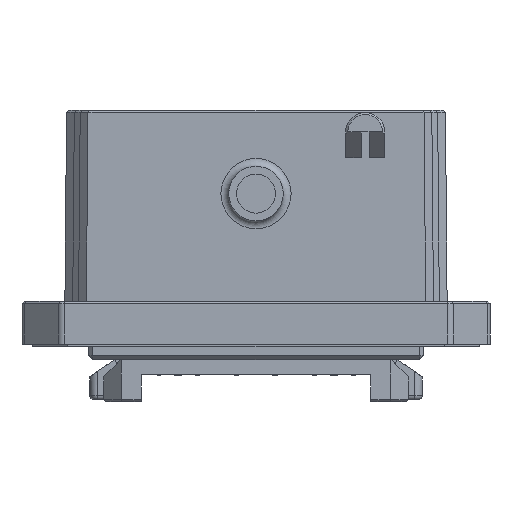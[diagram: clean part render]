
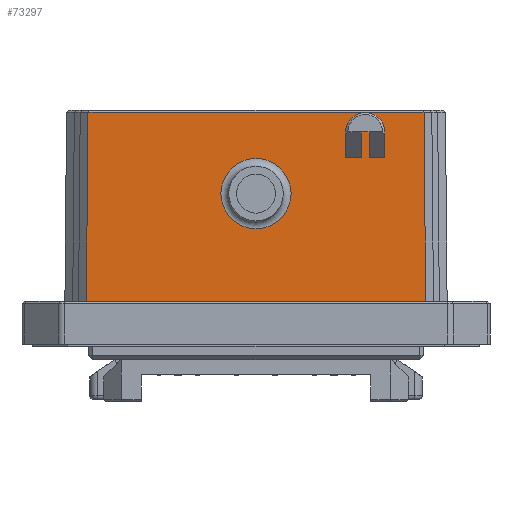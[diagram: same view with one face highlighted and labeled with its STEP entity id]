
A CAD part, front view. The second image highlights one B-rep face of the part: STEP entity #73297.
In plain terms, the highlighted planar face has unit normal (0, -1, 0).
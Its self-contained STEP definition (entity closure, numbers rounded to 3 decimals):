
#115 = CARTESIAN_POINT ( 'NONE',  ( 11.5, -21.5, -6.1 ) ) ;
#2459 = EDGE_CURVE ( 'NONE', #80733, #33456, #35967, .T. ) ;
#2883 = VERTEX_POINT ( 'NONE', #47376 ) ;
#3010 = CARTESIAN_POINT ( 'NONE',  ( 14., -21.5, -2.8 ) ) ;
#3462 = AXIS2_PLACEMENT_3D ( 'NONE', #19786, #33746, #20687 ) ;
#4576 = CARTESIAN_POINT ( 'NONE',  ( -22.75, -21.5, -24.5 ) ) ;
#4958 = CARTESIAN_POINT ( 'NONE',  ( 21.539, -21.5, -0.3 ) ) ;
#6015 = ORIENTED_EDGE ( 'NONE', *, *, #56129, .T. ) ;
#6453 = EDGE_CURVE ( 'NONE', #7864, #7532, #15236, .T. ) ;
#7532 = VERTEX_POINT ( 'NONE', #4958 ) ;
#7767 = CARTESIAN_POINT ( 'NONE',  ( 14.5, -21.5, -6.1 ) ) ;
#7864 = VERTEX_POINT ( 'NONE', #64782 ) ;
#8116 = CARTESIAN_POINT ( 'NONE',  ( 13.5, -21.5, -2.8 ) ) ;
#8924 = CARTESIAN_POINT ( 'NONE',  ( 14.5, -21.5, -2.8 ) ) ;
#9342 = VERTEX_POINT ( 'NONE', #36411 ) ;
#9963 = CARTESIAN_POINT ( 'NONE',  ( -21.75, -21.5, -24.509 ) ) ;
#9999 = DIRECTION ( 'NONE',  ( 0., 1., 0. ) ) ;
#10018 = VECTOR ( 'NONE', #17420, 1000. ) ;
#10109 = DIRECTION ( 'NONE',  ( -0.009, 0., 1. ) ) ;
#10505 = DIRECTION ( 'NONE',  ( 0., 0., 1. ) ) ;
#10769 = VECTOR ( 'NONE', #24259, 1000. ) ;
#11810 = LINE ( 'NONE', #30607, #24031 ) ;
#12431 = VECTOR ( 'NONE', #22253, 1000. ) ;
#12964 = VECTOR ( 'NONE', #10109, 1000. ) ;
#14212 = EDGE_CURVE ( 'NONE', #58072, #28464, #72912, .T. ) ;
#15236 = LINE ( 'NONE', #81493, #12964 ) ;
#16620 = CARTESIAN_POINT ( 'NONE',  ( 13.5, -21.5, -6.1 ) ) ;
#17104 = CARTESIAN_POINT ( 'NONE',  ( -22.75, -21.5, -0.3 ) ) ;
#17420 = DIRECTION ( 'NONE',  ( -1., 0., 0. ) ) ;
#18680 = CARTESIAN_POINT ( 'NONE',  ( 16.5, -21.5, -6.1 ) ) ;
#19275 = FACE_BOUND ( 'NONE', #77657, .T. ) ;
#19283 = DIRECTION ( 'NONE',  ( -1., 0., 0. ) ) ;
#19786 = CARTESIAN_POINT ( 'NONE',  ( 0., -21.5, -10.7 ) ) ;
#20112 = EDGE_CURVE ( 'NONE', #46342, #9342, #30820, .T. ) ;
#20687 = DIRECTION ( 'NONE',  ( 1., 0., 0. ) ) ;
#22253 = DIRECTION ( 'NONE',  ( -1., 0., 0. ) ) ;
#22598 = FACE_OUTER_BOUND ( 'NONE', #74416, .T. ) ;
#23456 = VECTOR ( 'NONE', #10505, 1000. ) ;
#23880 = ORIENTED_EDGE ( 'NONE', *, *, #52700, .T. ) ;
#23924 = ORIENTED_EDGE ( 'NONE', *, *, #57099, .T. ) ;
#24031 = VECTOR ( 'NONE', #70324, 1000. ) ;
#24207 = DIRECTION ( 'NONE',  ( -0.009, 0., -1. ) ) ;
#24259 = DIRECTION ( 'NONE',  ( -1., 0., 0. ) ) ;
#24737 = DIRECTION ( 'NONE',  ( 0., 0., -1. ) ) ;
#26531 = PLANE ( 'NONE',  #88161 ) ;
#27755 = ORIENTED_EDGE ( 'NONE', *, *, #14212, .T. ) ;
#28464 = VERTEX_POINT ( 'NONE', #78293 ) ;
#29144 = CIRCLE ( 'NONE', #46469, 2.5 ) ;
#30607 = CARTESIAN_POINT ( 'NONE',  ( 13.5, -21.5, -2.8 ) ) ;
#30655 = CARTESIAN_POINT ( 'NONE',  ( 14.5, -21.5, -2.8 ) ) ;
#30820 = CIRCLE ( 'NONE', #43938, 2.5 ) ;
#31341 = LINE ( 'NONE', #57668, #12431 ) ;
#31864 = LINE ( 'NONE', #17104, #10769 ) ;
#33456 = VERTEX_POINT ( 'NONE', #53789 ) ;
#33746 = DIRECTION ( 'NONE',  ( 0., 1., 0. ) ) ;
#34356 = CARTESIAN_POINT ( 'NONE',  ( 4.5, -21.5, -10.7 ) ) ;
#35272 = LINE ( 'NONE', #83573, #49723 ) ;
#35608 = EDGE_CURVE ( 'NONE', #46342, #58072, #31864, .T. ) ;
#35967 = LINE ( 'NONE', #8116, #60384 ) ;
#36411 = CARTESIAN_POINT ( 'NONE',  ( 16.5, -21.5, -2.8 ) ) ;
#38560 = VECTOR ( 'NONE', #50836, 1000. ) ;
#38684 = VECTOR ( 'NONE', #19283, 1000. ) ;
#38880 = LINE ( 'NONE', #60283, #10018 ) ;
#39803 = DIRECTION ( 'NONE',  ( 1., 0., 0. ) ) ;
#41872 = LINE ( 'NONE', #85602, #38560 ) ;
#43938 = AXIS2_PLACEMENT_3D ( 'NONE', #3010, #9999, #52235 ) ;
#44990 = CARTESIAN_POINT ( 'NONE',  ( 11.5, -21.5, -6.1 ) ) ;
#45021 = ORIENTED_EDGE ( 'NONE', *, *, #46746, .T. ) ;
#46342 = VERTEX_POINT ( 'NONE', #60657 ) ;
#46469 = AXIS2_PLACEMENT_3D ( 'NONE', #53772, #82331, #39803 ) ;
#46746 = EDGE_CURVE ( 'NONE', #2883, #64002, #38880, .T. ) ;
#47376 = CARTESIAN_POINT ( 'NONE',  ( 16.5, -21.5, -6.1 ) ) ;
#47530 = DIRECTION ( 'NONE',  ( 0., 0., -1. ) ) ;
#47924 = VERTEX_POINT ( 'NONE', #34356 ) ;
#47969 = DIRECTION ( 'NONE',  ( -1., 0., 0. ) ) ;
#48353 = ORIENTED_EDGE ( 'NONE', *, *, #20112, .T. ) ;
#48629 = LINE ( 'NONE', #18680, #38684 ) ;
#49723 = VECTOR ( 'NONE', #47530, 1000. ) ;
#50836 = DIRECTION ( 'NONE',  ( 1., 0., 0. ) ) ;
#52235 = DIRECTION ( 'NONE',  ( 1., 0., 0. ) ) ;
#52632 = EDGE_CURVE ( 'NONE', #80733, #75275, #48629, .T. ) ;
#52700 = EDGE_CURVE ( 'NONE', #9342, #2883, #35272, .T. ) ;
#52805 = ORIENTED_EDGE ( 'NONE', *, *, #86390, .T. ) ;
#53772 = CARTESIAN_POINT ( 'NONE',  ( 14., -21.5, -2.8 ) ) ;
#53789 = CARTESIAN_POINT ( 'NONE',  ( 13.5, -21.5, -2.8 ) ) ;
#56129 = EDGE_CURVE ( 'NONE', #7532, #46342, #31341, .T. ) ;
#57099 = EDGE_CURVE ( 'NONE', #47924, #47924, #74523, .T. ) ;
#57121 = CARTESIAN_POINT ( 'NONE',  ( 11.5, -21.5, -2.8 ) ) ;
#57668 = CARTESIAN_POINT ( 'NONE',  ( -22.75, -21.5, -0.3 ) ) ;
#58072 = VERTEX_POINT ( 'NONE', #84813 ) ;
#59008 = LINE ( 'NONE', #44990, #23456 ) ;
#60283 = CARTESIAN_POINT ( 'NONE',  ( 16.5, -21.5, -6.1 ) ) ;
#60384 = VECTOR ( 'NONE', #78876, 1000. ) ;
#60657 = CARTESIAN_POINT ( 'NONE',  ( 14., -21.5, -0.3 ) ) ;
#61823 = ORIENTED_EDGE ( 'NONE', *, *, #6453, .T. ) ;
#64002 = VERTEX_POINT ( 'NONE', #7767 ) ;
#64143 = EDGE_CURVE ( 'NONE', #33456, #84948, #11810, .T. ) ;
#64782 = CARTESIAN_POINT ( 'NONE',  ( 21.75, -21.5, -24.5 ) ) ;
#69327 = EDGE_CURVE ( 'NONE', #28464, #7864, #41872, .T. ) ;
#70324 = DIRECTION ( 'NONE',  ( 1., 0., 0. ) ) ;
#71731 = VECTOR ( 'NONE', #24207, 1000. ) ;
#72749 = VECTOR ( 'NONE', #24737, 1000. ) ;
#72912 = LINE ( 'NONE', #9963, #71731 ) ;
#73297 = ADVANCED_FACE ( 'NONE', ( #22598, #19275 ), #26531, .T. ) ;
#73537 = ORIENTED_EDGE ( 'NONE', *, *, #77788, .T. ) ;
#74416 = EDGE_LOOP ( 'NONE', ( #61823, #6015, #48353, #23880, #45021, #77123, #81910, #87405, #85021, #73537, #52805, #79181, #27755, #84522 ) ) ;
#74523 = CIRCLE ( 'NONE', #3462, 4.5 ) ;
#75275 = VERTEX_POINT ( 'NONE', #115 ) ;
#76265 = DIRECTION ( 'NONE',  ( 0., -1., 0. ) ) ;
#77123 = ORIENTED_EDGE ( 'NONE', *, *, #83613, .F. ) ;
#77657 = EDGE_LOOP ( 'NONE', ( #23924 ) ) ;
#77788 = EDGE_CURVE ( 'NONE', #75275, #79044, #59008, .T. ) ;
#78293 = CARTESIAN_POINT ( 'NONE',  ( -21.75, -21.5, -24.5 ) ) ;
#78876 = DIRECTION ( 'NONE',  ( 0., 0., 1. ) ) ;
#79044 = VERTEX_POINT ( 'NONE', #57121 ) ;
#79181 = ORIENTED_EDGE ( 'NONE', *, *, #35608, .T. ) ;
#80467 = LINE ( 'NONE', #30655, #72749 ) ;
#80733 = VERTEX_POINT ( 'NONE', #16620 ) ;
#81493 = CARTESIAN_POINT ( 'NONE',  ( 21.747, -21.5, -24.112 ) ) ;
#81910 = ORIENTED_EDGE ( 'NONE', *, *, #64143, .F. ) ;
#82331 = DIRECTION ( 'NONE',  ( 0., 1., 0. ) ) ;
#83573 = CARTESIAN_POINT ( 'NONE',  ( 16.5, -21.5, -6.1 ) ) ;
#83613 = EDGE_CURVE ( 'NONE', #84948, #64002, #80467, .T. ) ;
#84522 = ORIENTED_EDGE ( 'NONE', *, *, #69327, .T. ) ;
#84813 = CARTESIAN_POINT ( 'NONE',  ( -21.539, -21.5, -0.3 ) ) ;
#84948 = VERTEX_POINT ( 'NONE', #8924 ) ;
#85021 = ORIENTED_EDGE ( 'NONE', *, *, #52632, .T. ) ;
#85602 = CARTESIAN_POINT ( 'NONE',  ( -22.75, -21.5, -24.5 ) ) ;
#86390 = EDGE_CURVE ( 'NONE', #79044, #46342, #29144, .T. ) ;
#87405 = ORIENTED_EDGE ( 'NONE', *, *, #2459, .F. ) ;
#88161 = AXIS2_PLACEMENT_3D ( 'NONE', #4576, #76265, #47969 ) ;
